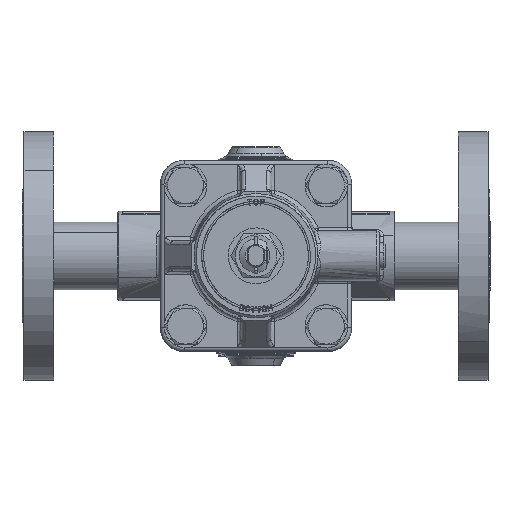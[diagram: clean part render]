
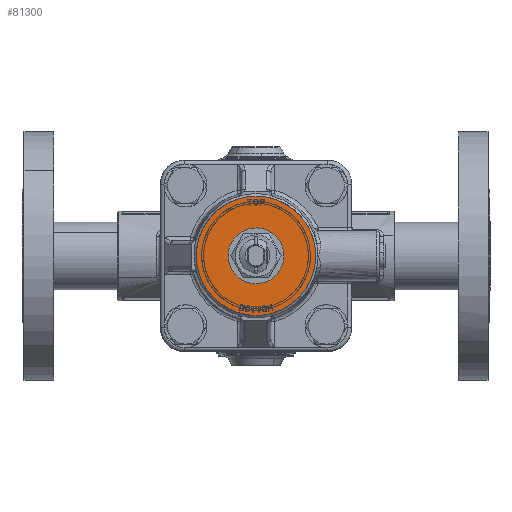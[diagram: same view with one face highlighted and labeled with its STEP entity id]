
A CAD part, top view. The second image highlights one B-rep face of the part: STEP entity #81300.
In plain terms, the highlighted free-form (B-spline) face has degree [1, 1] with [2, 2] control points.
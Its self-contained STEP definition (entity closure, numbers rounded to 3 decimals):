
#80980=CARTESIAN_POINT('',(-20.268,22.118,28.2));
#80981=VERTEX_POINT('',#80980);
#80987=CARTESIAN_POINT('',(0.,30.,28.2));
#80988=VERTEX_POINT('',#80987);
#80989=CARTESIAN_POINT('',(0.,30.,28.2));
#80990=CARTESIAN_POINT('',(-1.681,30.,28.2));
#80991=CARTESIAN_POINT('',(-4.926,29.727,28.2));
#80992=CARTESIAN_POINT('',(-9.323,28.621,28.2));
#80993=CARTESIAN_POINT('',(-13.085,27.082,28.2));
#80994=CARTESIAN_POINT('',(-16.727,25.031,28.2));
#80995=CARTESIAN_POINT('',(-19.029,23.254,28.2));
#80996=CARTESIAN_POINT('',(-20.268,22.118,28.2));
#80997=B_SPLINE_CURVE_WITH_KNOTS('',3,(#80989,#80990,#80991,#80992,#80993,#80994,#80995,#80996),.UNSPECIFIED.,.F.,.U.,(4,1,1,1,1,4),(0.,5.042,9.736,13.56,17.211,22.253),.UNSPECIFIED.);
#80998=EDGE_CURVE('',#80988,#80981,#80997,.T.);
#81000=CARTESIAN_POINT('',(30.,0.,28.2));
#81001=VERTEX_POINT('',#81000);
#81002=CARTESIAN_POINT('',(30.,0.,28.2));
#81003=CARTESIAN_POINT('',(30.,1.35,28.2));
#81004=CARTESIAN_POINT('',(29.817,4.05,28.2));
#81005=CARTESIAN_POINT('',(29.026,7.905,28.2));
#81006=CARTESIAN_POINT('',(27.726,11.684,28.2));
#81007=CARTESIAN_POINT('',(26.049,15.041,28.2));
#81008=CARTESIAN_POINT('',(23.83,18.362,28.2));
#81009=CARTESIAN_POINT('',(20.714,21.93,28.2));
#81010=CARTESIAN_POINT('',(16.898,24.965,28.2));
#81011=CARTESIAN_POINT('',(13.074,27.069,28.2));
#81012=CARTESIAN_POINT('',(9.896,28.386,28.2));
#81013=CARTESIAN_POINT('',(5.645,29.619,28.2));
#81014=CARTESIAN_POINT('',(2.209,30.,28.2));
#81015=CARTESIAN_POINT('',(0.,30.,28.2));
#81016=B_SPLINE_CURVE_WITH_KNOTS('',3,(#81002,#81003,#81004,#81005,#81006,#81007,#81008,#81009,#81010,#81011,#81012,#81013,#81014,#81015),.UNSPECIFIED.,.F.,.U.,(4,1,1,1,1,1,1,1,1,1,1,4),(0.,4.05,8.099,11.781,16.015,19.328,23.746,30.189,33.87,36.816,40.497,47.124),.UNSPECIFIED.);
#81017=EDGE_CURVE('',#81001,#80988,#81016,.T.);
#81019=CARTESIAN_POINT('',(20.268,-22.118,28.2));
#81020=VERTEX_POINT('',#81019);
#81021=CARTESIAN_POINT('',(20.268,-22.118,28.2));
#81022=CARTESIAN_POINT('',(24.919,-17.856,28.2));
#81023=CARTESIAN_POINT('',(27.459,-12.082,28.2));
#81024=CARTESIAN_POINT('',(30.,-6.308,28.2));
#81025=CARTESIAN_POINT('',(30.,0.,28.2));
#81033=(BOUNDED_CURVE()B_SPLINE_CURVE(2,(#81021,#81022,#81023,#81024,#81025),.UNSPECIFIED.,.F.,.U.)B_SPLINE_CURVE_WITH_KNOTS((3,2,3),(0.,0.5,1.),.UNSPECIFIED.)CURVE()GEOMETRIC_REPRESENTATION_ITEM()RATIONAL_B_SPLINE_CURVE((1.,0.979,1.,0.979,1.))REPRESENTATION_ITEM(''));
#81034=EDGE_CURVE('',#81020,#81001,#81033,.T.);
#81135=CARTESIAN_POINT('',(0.,-30.,28.2));
#81136=VERTEX_POINT('',#81135);
#81137=CARTESIAN_POINT('',(0.,-30.,28.2));
#81138=CARTESIAN_POINT('',(1.681,-30.,28.2));
#81139=CARTESIAN_POINT('',(4.926,-29.727,28.2));
#81140=CARTESIAN_POINT('',(9.323,-28.621,28.2));
#81141=CARTESIAN_POINT('',(13.408,-26.95,28.2));
#81142=CARTESIAN_POINT('',(17.018,-24.834,28.2));
#81143=CARTESIAN_POINT('',(19.285,-23.019,28.2));
#81144=CARTESIAN_POINT('',(20.268,-22.118,28.2));
#81145=B_SPLINE_CURVE_WITH_KNOTS('',3,(#81137,#81138,#81139,#81140,#81141,#81142,#81143,#81144),.UNSPECIFIED.,.F.,.U.,(4,1,1,1,1,4),(0.,5.042,9.736,13.56,18.254,22.253),.UNSPECIFIED.);
#81146=EDGE_CURVE('',#81136,#81020,#81145,.T.);
#81148=CARTESIAN_POINT('',(-30.,0.,28.2));
#81149=VERTEX_POINT('',#81148);
#81150=CARTESIAN_POINT('',(-30.,0.,28.2));
#81151=CARTESIAN_POINT('',(-30.,-12.426,28.2));
#81152=CARTESIAN_POINT('',(-21.213,-21.213,28.2));
#81153=CARTESIAN_POINT('',(-12.426,-30.,28.2));
#81154=CARTESIAN_POINT('',(0.,-30.,28.2));
#81162=(BOUNDED_CURVE()B_SPLINE_CURVE(2,(#81150,#81151,#81152,#81153,#81154),.UNSPECIFIED.,.F.,.U.)B_SPLINE_CURVE_WITH_KNOTS((3,2,3),(0.,0.5,1.),.UNSPECIFIED.)CURVE()GEOMETRIC_REPRESENTATION_ITEM()RATIONAL_B_SPLINE_CURVE((1.,0.924,1.,0.924,1.))REPRESENTATION_ITEM(''));
#81163=EDGE_CURVE('',#81149,#81136,#81162,.T.);
#81165=CARTESIAN_POINT('',(-20.268,22.118,28.2));
#81166=CARTESIAN_POINT('',(-21.271,21.199,28.2));
#81167=CARTESIAN_POINT('',(-23.196,19.178,28.2));
#81168=CARTESIAN_POINT('',(-25.881,15.431,28.2));
#81169=CARTESIAN_POINT('',(-27.728,11.701,28.2));
#81170=CARTESIAN_POINT('',(-29.09,7.644,28.2));
#81171=CARTESIAN_POINT('',(-29.828,4.016,28.2));
#81172=CARTESIAN_POINT('',(-30.,1.231,28.2));
#81173=CARTESIAN_POINT('',(-30.,0.,28.2));
#81174=B_SPLINE_CURVE_WITH_KNOTS('',3,(#81165,#81166,#81167,#81168,#81169,#81170,#81171,#81172,#81173),.UNSPECIFIED.,.F.,.U.,(4,1,1,1,1,1,4),(0.,4.08,8.355,13.796,16.516,21.179,24.871),.UNSPECIFIED.);
#81175=EDGE_CURVE('',#80981,#81149,#81174,.T.);
#81241=CARTESIAN_POINT('',(32.997,-32.997,28.2));
#81242=CARTESIAN_POINT('',(-32.997,-32.997,28.2));
#81243=CARTESIAN_POINT('',(32.997,32.997,28.2));
#81244=CARTESIAN_POINT('',(-32.997,32.997,28.2));
#81245=B_SPLINE_SURFACE_WITH_KNOTS('',1,1,((#81241,#81243),(#81242,#81244)),.UNSPECIFIED.,.F.,.F.,.U.,(2,2),(2,2),(0.,65.994),(0.,65.994),.UNSPECIFIED.);
#81246=ORIENTED_EDGE('',*,*,#81163,.T.);
#81247=ORIENTED_EDGE('',*,*,#81146,.T.);
#81248=ORIENTED_EDGE('',*,*,#81034,.T.);
#81249=ORIENTED_EDGE('',*,*,#81017,.T.);
#81250=ORIENTED_EDGE('',*,*,#80998,.T.);
#81251=ORIENTED_EDGE('',*,*,#81175,.T.);
#81252=EDGE_LOOP('',(#81246,#81247,#81248,#81249,#81250,#81251));
#81253=FACE_OUTER_BOUND('',#81252,.T.);
#81254=CARTESIAN_POINT('',(-4.989,-5.6,28.2));
#81255=VERTEX_POINT('',#81254);
#81256=CARTESIAN_POINT('',(4.989,-5.6,28.2));
#81257=VERTEX_POINT('',#81256);
#81258=CARTESIAN_POINT('',(-4.989,-5.6,28.2));
#81259=CARTESIAN_POINT('',(4.989,-5.6,28.2));
#81260=QUASI_UNIFORM_CURVE('',1,(#81258,#81259),.UNSPECIFIED.,.F.,.U.);
#81261=EDGE_CURVE('',#81255,#81257,#81260,.T.);
#81262=ORIENTED_EDGE('',*,*,#81261,.F.);
#81263=CARTESIAN_POINT('',(0.,7.5,28.2));
#81264=VERTEX_POINT('',#81263);
#81265=CARTESIAN_POINT('',(0.,7.5,28.2));
#81266=CARTESIAN_POINT('',(-0.66,7.5,28.2));
#81267=CARTESIAN_POINT('',(-1.697,7.362,28.2));
#81268=CARTESIAN_POINT('',(-3.079,6.874,28.2));
#81269=CARTESIAN_POINT('',(-4.159,6.285,28.2));
#81270=CARTESIAN_POINT('',(-5.124,5.521,28.2));
#81271=CARTESIAN_POINT('',(-6.145,4.405,28.2));
#81272=CARTESIAN_POINT('',(-7.027,2.88,28.2));
#81273=CARTESIAN_POINT('',(-7.511,0.991,28.2));
#81274=CARTESIAN_POINT('',(-7.522,-1.002,28.2));
#81275=CARTESIAN_POINT('',(-7.034,-2.846,28.2));
#81276=CARTESIAN_POINT('',(-6.111,-4.449,28.2));
#81277=CARTESIAN_POINT('',(-5.376,-5.255,28.2));
#81278=CARTESIAN_POINT('',(-4.989,-5.6,28.2));
#81279=B_SPLINE_CURVE_WITH_KNOTS('',3,(#81265,#81266,#81267,#81268,#81269,#81270,#81271,#81272,#81273,#81274,#81275,#81276,#81277,#81278),.UNSPECIFIED.,.F.,.U.,(4,1,1,1,1,1,1,1,1,1,1,4),(0.,1.98,3.112,4.385,5.658,6.789,8.911,10.891,12.588,14.851,16.548,18.104),.UNSPECIFIED.);
#81280=EDGE_CURVE('',#81264,#81255,#81279,.T.);
#81281=ORIENTED_EDGE('',*,*,#81280,.F.);
#81282=CARTESIAN_POINT('',(4.989,-5.6,28.2));
#81283=CARTESIAN_POINT('',(5.482,-5.161,28.2));
#81284=CARTESIAN_POINT('',(6.164,-4.368,28.2));
#81285=CARTESIAN_POINT('',(6.94,-2.96,28.2));
#81286=CARTESIAN_POINT('',(7.44,-1.426,28.2));
#81287=CARTESIAN_POINT('',(7.556,0.234,28.2));
#81288=CARTESIAN_POINT('',(7.286,2.06,28.2));
#81289=CARTESIAN_POINT('',(6.592,3.785,28.2));
#81290=CARTESIAN_POINT('',(5.358,5.356,28.2));
#81291=CARTESIAN_POINT('',(3.859,6.519,28.2));
#81292=CARTESIAN_POINT('',(2.074,7.305,28.2));
#81293=CARTESIAN_POINT('',(0.707,7.5,28.2));
#81294=CARTESIAN_POINT('',(0.,7.5,28.2));
#81295=B_SPLINE_CURVE_WITH_KNOTS('',3,(#81282,#81283,#81284,#81285,#81286,#81287,#81288,#81289,#81290,#81291,#81292,#81293,#81294),.UNSPECIFIED.,.F.,.U.,(4,1,1,1,1,1,1,1,1,1,4),(0.,1.98,3.112,4.809,6.789,8.062,10.325,12.305,14.002,15.983,18.104),.UNSPECIFIED.);
#81296=EDGE_CURVE('',#81257,#81264,#81295,.T.);
#81297=ORIENTED_EDGE('',*,*,#81296,.F.);
#81298=EDGE_LOOP('',(#81262,#81281,#81297));
#81299=FACE_BOUND('',#81298,.T.);
#81300=ADVANCED_FACE('',(#81253,#81299),#81245,.F.);
